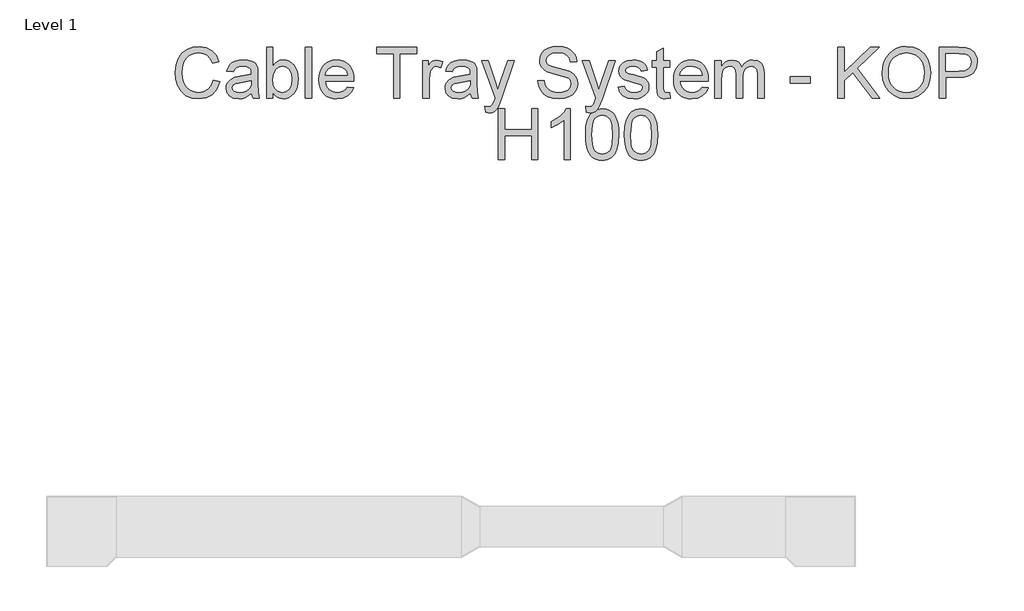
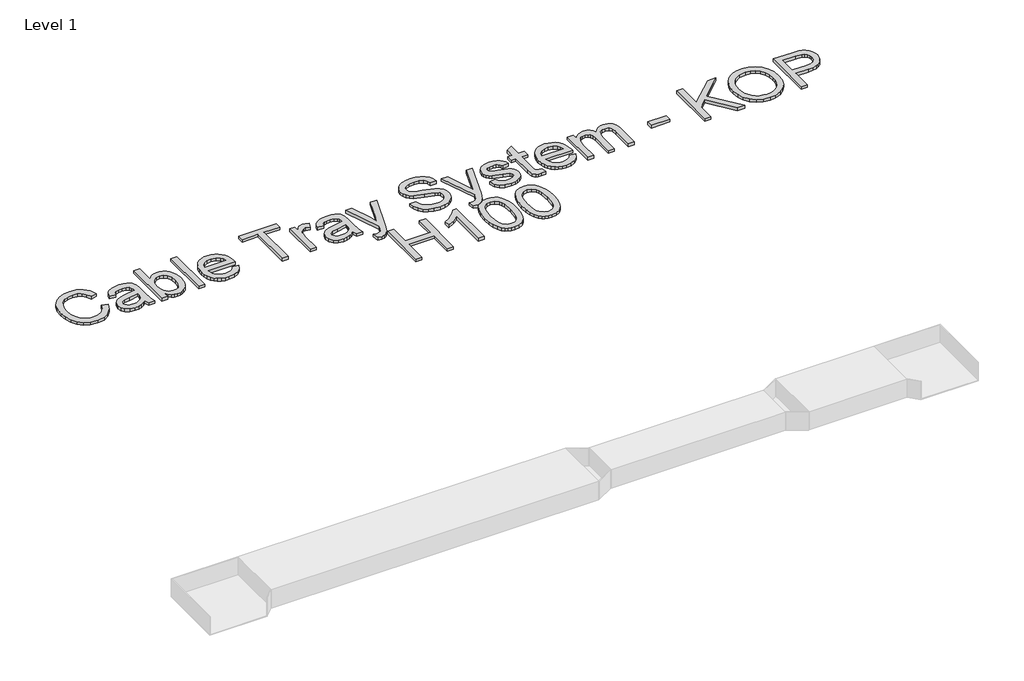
# One storey, part 91 of 106: 1 proxy.
"""IFC4 building model written with IfcOpenShell, lengths in millimetres."""

import ifcopenshell
import ifcopenshell.guid

model = None  # the IFC model being written
_history = None  # IfcOwnerHistory: only IFC2X3 demands one
_inside = {}  # id of a spatial element -> (the spatial element, [elements in it])
_under = {}  # id of a project, library or spatial element -> (it, [spatial elements below it])
_declared = {}  # id of a project -> (the project, [libraries it declares])
_typed = {}  # id of a type object -> (the type object, [elements of that type])
_made_of = {}  # id of a material, layer set ... -> (it, [elements and type objects made of it])


def new_model(schema):
    """Start an empty IFC model of exactly this schema.

    Asked for "IFC4X3", IfcOpenShell would pick the latest addendum, in which some entities
    have other attributes; the version numbers below select the first issue.
    IFC2X3 requires an IfcOwnerHistory on every rooted entity: one is made here for all.
    """
    global model, _history
    if schema == "IFC4X3":
        model = ifcopenshell.file(schema_version=(4, 3, 0, 0))
    else:
        model = ifcopenshell.file(schema=schema)
    _inside.clear()
    _under.clear()
    _declared.clear()
    _typed.clear()
    _made_of.clear()
    _history = None
    if model.schema == "IFC2X3":
        org = make("IfcOrganization", Name="unknown")
        user = make(
            "IfcPersonAndOrganization",
            ThePerson=make("IfcPerson", FamilyName="unknown"),
            TheOrganization=org,
        )
        app = make(
            "IfcApplication",
            ApplicationDeveloper=org,
            Version="unknown",
            ApplicationFullName="unknown",
            ApplicationIdentifier="unknown",
        )
        _history = make(
            "IfcOwnerHistory",
            OwningUser=user,
            OwningApplication=app,
            ChangeAction="ADDED",
            CreationDate=0,
        )
    return model


def make(cls, **values):
    """One entity of the class cls with the attributes given. An attribute that is None is left unset."""
    return model.create_entity(
        cls, **{name: value for name, value in values.items() if value is not None}
    )


def rooted(cls, **values):
    """An entity with a GlobalId (a new one), such as an element, a storey or a relation."""
    return make(cls, GlobalId=ifcopenshell.guid.new(), OwnerHistory=_history, **values)


def si_unit(unit_type, name, prefix=None):
    """IfcSIUnit, for example si_unit("LENGTHUNIT", "METRE", prefix="MILLI")."""
    return make("IfcSIUnit", UnitType=unit_type, Prefix=prefix, Name=name)


def assignment(units):
    """IfcUnitAssignment: the units of a project."""
    return None if units is None else make("IfcUnitAssignment", Units=units)


def point(xyz):
    """IfcCartesianPoint."""
    return None if xyz is None else make("IfcCartesianPoint", Coordinates=xyz)


def direction(xyz):
    """IfcDirection."""
    return None if xyz is None else make("IfcDirection", DirectionRatios=xyz)


def frame(location, z_axis=None, x_axis=None):
    """IfcAxis2Placement3D, a coordinate frame: its origin and axes. An axis left out is left unset."""
    return make(
        "IfcAxis2Placement3D",
        Location=point(location),
        Axis=direction(z_axis),
        RefDirection=direction(x_axis),
    )


def origin():
    """The frame at (0, 0, 0) with its axes left unset."""
    return frame((0.0, 0.0, 0.0))


def origin_with_axes():
    """The frame at (0, 0, 0) with the z axis (0, 0, 1) and the x axis (1, 0, 0) written out."""
    return frame((0.0, 0.0, 0.0), z_axis=(0.0, 0.0, 1.0), x_axis=(1.0, 0.0, 0.0))


def place(relative_to, where):
    """IfcLocalPlacement: puts the frame where relative to a parent placement (None: the world)."""
    return make(
        "IfcLocalPlacement", PlacementRelTo=relative_to, RelativePlacement=where
    )


def context(
    kind, dimensions, precision=None, world=None, true_north=None, identifier=None
):
    """IfcGeometricRepresentationContext, for example the 3D "Model" context."""
    return make(
        "IfcGeometricRepresentationContext",
        ContextIdentifier=identifier,
        ContextType=kind,
        CoordinateSpaceDimension=dimensions,
        Precision=precision,
        WorldCoordinateSystem=world,
        TrueNorth=true_north,
    )


def project(units=None, contexts=None):
    """IfcProject with its units and contexts."""
    return rooted(
        "IfcProject",
        Name="project",
        RepresentationContexts=contexts,
        UnitsInContext=assignment(units),
    )


def spatial(cls, under=None, at=None, **own):
    """A site, building, storey or space (cls), placed at a placement, below another one or the project."""
    s = rooted(cls, ObjectPlacement=at, **own)
    if under is not None:
        _under.setdefault(under.id(), (under, []))[1].append(s)
    return s


def polyline(points):
    """IfcPolyline through the points."""
    return make("IfcPolyline", Points=[point(p) for p in points])


def outline(outer, holes=None, kind="AREA"):
    """IfcArbitraryClosedProfileDef: a profile drawn as a closed curve; with holes, ...WithVoids."""
    if holes is None:
        return make("IfcArbitraryClosedProfileDef", ProfileType=kind, OuterCurve=outer)
    return make(
        "IfcArbitraryProfileDefWithVoids",
        ProfileType=kind,
        OuterCurve=outer,
        InnerCurves=holes,
    )


def extrude(swept, where, along, depth):
    """IfcExtrudedAreaSolid: the profile swept, set in the frame where, extruded along a direction by depth."""
    return make(
        "IfcExtrudedAreaSolid",
        SweptArea=swept,
        Position=where,
        ExtrudedDirection=direction(along),
        Depth=depth,
    )


def shape(context_of_items, identifier, shape_type, items):
    """IfcShapeRepresentation: the items that make up one representation, for example the "Body"."""
    return make(
        "IfcShapeRepresentation",
        ContextOfItems=context_of_items,
        RepresentationIdentifier=identifier,
        RepresentationType=shape_type,
        Items=items,
    )


def made_of(thing, what):
    """Note that an element or type object is made of a material, layer set ...; save() writes the relation."""
    if what is not None:
        _made_of.setdefault(what.id(), (what, []))[1].append(thing)
    return thing


def element(
    cls,
    number,
    at=None,
    inside=None,
    cuts=None,
    type_object=None,
    material=None,
    context=None,
    identifier="Body",
    shape_type=None,
    held_by="IfcProductDefinitionShape",
    body=None,
    shapes=None,
    **own,
):
    """One element of the class cls, such as IfcWall. Its Tag is "e" and its number.

    at: its placement. inside: the storey or other place that contains it. cuts: it is an
    opening in that element (IfcRelVoidsElement). A single representation is given by context,
    identifier, shape_type and body (its items); several are given by shapes. held_by: the class
    of the entity that holds the representations. save() writes the other relations.
    """
    e = rooted(cls, Tag="e%d" % number, ObjectPlacement=at, **own)
    if body is not None:
        shapes = [shape(context, identifier, shape_type, body)]
    if shapes is not None:
        e.Representation = make(held_by, Representations=shapes)
    if inside is not None:
        _inside.setdefault(inside.id(), (inside, []))[1].append(e)
    if cuts is not None:
        rooted(
            "IfcRelVoidsElement", RelatingBuildingElement=cuts, RelatedOpeningElement=e
        )
    if type_object is not None:
        _typed.setdefault(type_object.id(), (type_object, []))[1].append(e)
    return made_of(e, material)


def aggregate(whole, parts):
    """IfcRelAggregates: a whole, such as a stair, and the parts it consists of."""
    return rooted("IfcRelAggregates", RelatingObject=whole, RelatedObjects=parts)


def save(model, path):
    """Write the relations noted so far, then the file.

    IfcRelAggregates (storeys below a building ...), IfcRelContainedInSpatialStructure (elements
    in a storey), IfcRelDefinesByType, IfcRelAssociatesMaterial and IfcRelDeclares: one each for
    every whole, place, type object, material and project.
    """
    for whole, parts in _under.values():
        aggregate(whole, parts)
    for where, things in _inside.values():
        rooted(
            "IfcRelContainedInSpatialStructure",
            RelatedElements=things,
            RelatingStructure=where,
        )
    for kind, things in _typed.values():
        rooted("IfcRelDefinesByType", RelatedObjects=things, RelatingType=kind)
    for what, things in _made_of.values():
        rooted("IfcRelAssociatesMaterial", RelatedObjects=things, RelatingMaterial=what)
    for by, libraries in _declared.values():
        rooted("IfcRelDeclares", RelatingContext=by, RelatedDefinitions=libraries)
    model.write(path)


model = new_model("IFC4")

# Units and contexts
model_context = context("Model", 3, world=origin())
ifc_project = project(units=[si_unit("LENGTHUNIT", "METRE", prefix="MILLI")], contexts=[model_context])

# Site, building, storey
site = spatial("IfcSite", under=ifc_project)
building = spatial("IfcBuilding", under=site)
storey = spatial("IfcBuildingStorey", under=building, Name="Level 1", Elevation=0.0)

# Proxy
placement = place(None, origin())
element("IfcBuildingElementProxy", 1, Name="250mm Arial 3", ObjectType="250mm Arial 3", at=placement, inside=storey, context=model_context, shape_type="SweptSolid", body=[
    extrude(outline(polyline([(165632.1601163, 14592.4106539), (165663.5527133, 14584.31725), (165649.0673597, 14547.7359841), (165626.3353181, 14521.01089), (165596.4755628, 14504.6631338), (165560.6070683, 14499.2138818), (165524.194415, 14503.3372258), (165495.2773573, 14515.7072579), (165473.1124671, 14535.8947824), (165456.9563161, 14563.4706036), (165447.0924801, 14595.8902044), (165443.8045348, 14630.6090677), (165447.5216758, 14667.2286547), (165458.6730988, 14698.8511778), (165476.6763239, 14724.472626), (165500.9488714, 14743.0889877), (165529.7356375, 14754.4243517), (165561.2815186, 14758.2028064), (165595.7014778, 14753.3130415), (165624.1586829, 14738.643747), (165645.764086, 14715.0992993), (165659.6286386, 14683.584075), (165628.2360417, 14676.1038078), (165617.352866, 14698.9967978), (165602.4843021, 14714.7007605), (165583.4464088, 14723.7828472), (165560.0552453, 14726.8102095), (165533.0925607, 14723.4532863), (165510.9429989, 14713.3825166), (165494.1353903, 14697.6555613), (165483.1985651, 14677.3300811), (165477.1974901, 14654.3527848), (165475.1971317, 14630.6703814), (165477.5653721, 14601.6690174), (165484.6700931, 14576.5917281), (165496.7795421, 14556.3965394), (165514.1619664, 14542.0414774), (165535.0009486, 14533.4652284), (165557.4800713, 14530.6064787), (165583.6839993, 14534.4998965), (165605.5193285, 14546.1801498), (165622.0050404, 14565.5246114), (165632.1601163, 14592.4106539)])), origin_with_axes(), (0.0, 0.0, 1.0), 15.0),
    extrude(outline(polyline([(165820.5156979, 14526.6824041), (165805.5168424, 14513.8218627), (165790.0734628, 14505.406562), (165773.8330055, 14500.7620518), (165756.442917, 14499.2138818), (165730.2083323, 14502.938687), (165710.8562065, 14514.1131026), (165698.9230343, 14531.0816596), (165694.9453102, 14552.1888891), (165696.447495, 14565.2027147), (165700.9540494, 14577.0209238), (165716.7423184, 14595.0471415), (165738.7232676, 14605.3478374), (165765.8852216, 14610.0689897), (165820.3317569, 14620.8601949), (165820.5156979, 14627.8499528), (165818.3543911, 14641.8601254), (165811.870471, 14651.0265185), (165797.369789, 14657.8323354), (165777.1669361, 14660.100941), (165758.466268, 14658.591092), (165745.4064572, 14654.0615449), (165736.5006472, 14645.6845653), (165730.2619817, 14632.6324187), (165698.8693848, 14636.5564933), (165704.3186369, 14653.7243198), (165712.4503618, 14667.2133262), (165724.0233162, 14677.5293505), (165739.7962568, 14685.1782303), (165759.0870689, 14689.914711), (165781.2136381, 14691.4935379), (165802.4358307, 14690.098652), (165819.2587677, 14685.9139943), (165831.9430323, 14679.6216794), (165840.7492076, 14671.9038217), (165850.3754531, 14650.5973228), (165851.9082948, 14623.1288005), (165851.9082948, 14584.0719953), (165853.5024501, 14529.5334895), (165859.756444, 14503.1379564), (165828.3638471, 14503.1379564), (165820.5156979, 14526.6824041)]), holes=[polyline([(165820.5156979, 14589.4675979), (165769.8706099, 14579.8413524), (165742.8619401, 14574.7523181), (165730.6298637, 14566.4749732), (165726.3379071, 14554.3961811), (165728.6754906, 14545.0611754), (165735.6882412, 14537.4122956), (165747.2228745, 14532.3079329), (165763.1261066, 14530.6064787), (165779.9873647, 14532.4842097), (165794.8865855, 14538.1174028), (165806.9653777, 14546.4177403), (165815.3653499, 14556.2969047), (165819.0901551, 14566.4749732), (165820.3317569, 14580.5771164), (165820.5156979, 14589.4675979)])]), origin_with_axes(), (0.0, 0.0, 1.0), 15.0),
    extrude(outline(polyline([(165926.4657125, 14503.1379564), (165895.0731156, 14503.1379564), (165895.0731156, 14754.2787318), (165926.4657125, 14754.2787318), (165926.4657125, 14661.1432733), (165936.789401, 14674.4215141), (165948.4466617, 14683.9059718), (165961.4374946, 14689.5966464), (165975.7618998, 14691.4935379), (165991.9333792, 14689.7844195), (166007.2158104, 14684.6570642), (166020.7354737, 14676.4333687), (166031.6186494, 14665.4352299), (166046.6098407, 14635.5448178), (166052.0361002, 14598.1128248), (166046.4182355, 14556.2049342), (166039.3959047, 14539.2746982), (166029.5646416, 14525.0269351), (166017.763677, 14513.7337243), (166004.8322417, 14505.6671451), (165990.7703356, 14500.8271976), (165975.5779588, 14499.2138818), (165960.7822048, 14501.2947143), (165947.6649125, 14507.5372119), (165936.2260817, 14517.9413746), (165926.4657125, 14532.5072023), (165926.4657125, 14503.1379564)]), holes=[polyline([(165926.4657125, 14596.6412968), (165928.6116908, 14570.4603615), (165935.0496257, 14552.7407121), (165951.4970166, 14536.140037), (165972.8801575, 14530.6064787), (165990.9983458, 14534.6838375), (166006.4800464, 14546.9159138), (166017.102639, 14567.2260656), (166020.6435032, 14595.5376509), (166017.248259, 14624.2631033), (166007.0625263, 14644.3433289), (165992.0636707, 14656.161538), (165974.2290582, 14660.100941), (165956.1108699, 14656.0235822), (165940.6291693, 14643.7915059), (165930.0065767, 14623.8492361), (165926.4657125, 14596.6412968)])]), origin_with_axes(), (0.0, 0.0, 1.0), 15.0),
    extrude(outline(polyline([(166087.3527717, 14503.1379564), (166087.3527717, 14754.2787318), (166118.7453686, 14754.2787318), (166118.7453686, 14503.1379564), (166087.3527717, 14503.1379564)])), origin_with_axes(), (0.0, 0.0, 1.0), 15.0),
    extrude(outline(polyline([(166294.9608443, 14558.075001), (166325.7403046, 14554.1509264), (166314.6501953, 14530.9590323), (166296.9535385, 14513.6225933), (166273.048873, 14502.8160596), (166243.3347377, 14499.2138818), (166223.8561524, 14500.7678), (166206.5005529, 14505.4295547), (166191.267939, 14513.1991458), (166178.1583108, 14524.0765733), (166167.6161924, 14537.759101), (166160.0861078, 14553.9439928), (166155.5680571, 14572.6312485), (166154.0620402, 14593.8208682), (166155.5833855, 14615.7290074), (166160.1474215, 14635.0389801), (166167.7541482, 14651.7507861), (166178.4035655, 14665.8644256), (166191.4787048, 14677.0771622), (166206.3625971, 14685.0862598), (166223.0552427, 14689.8917184), (166241.5566414, 14691.4935379), (166259.4621478, 14689.8955505), (166275.6547038, 14685.1015883), (166290.1343092, 14677.1116512), (166302.900964, 14665.9257393), (166313.3223712, 14651.8427566), (166320.7662334, 14635.1616074), (166325.2325508, 14615.8822916), (166326.7213232, 14594.0048092), (166326.5373822, 14585.5435233), (166185.4546371, 14585.5435233), (166190.8885607, 14562.0450609), (166203.5115117, 14544.7699355), (166221.7293347, 14534.1473429), (166243.9478743, 14530.6064787), (166260.6558483, 14532.2466193), (166274.7273346, 14537.1670409), (166286.1623333, 14545.6743121), (166294.9608443, 14558.075001)]), holes=[polyline([(166185.4546371, 14616.9361202), (166295.3287263, 14616.9361202), (166291.082755, 14633.5214669), (166282.7594248, 14645.3856612), (166264.4572956, 14656.4221211), (166241.434014, 14660.100941), (166220.2731351, 14657.1655493), (166202.7757477, 14648.359374), (166190.6126492, 14634.632777), (166185.4546371, 14616.9361202)])]), origin_with_axes(), (0.0, 0.0, 1.0), 15.0),
    extrude(outline(polyline([(166522.925054, 14503.1379564), (166522.925054, 14722.8861348), (166440.5194871, 14722.8861348), (166440.5194871, 14754.2787318), (166636.7232178, 14754.2787318), (166636.7232178, 14722.8861348), (166554.3176509, 14722.8861348), (166554.3176509, 14503.1379564), (166522.925054, 14503.1379564)])), origin_with_axes(), (0.0, 0.0, 1.0), 15.0),
    extrude(outline(polyline([(166668.1158148, 14503.1379564), (166668.1158148, 14687.5694633), (166695.5843371, 14687.5694633), (166695.5843371, 14660.284882), (166705.7317488, 14676.1038078), (166715.0820828, 14685.423485), (166734.7024559, 14691.4935379), (166750.3374407, 14689.0716481), (166766.2176801, 14681.8059787), (166755.7330433, 14653.6630061), (166733.6601236, 14660.100941), (166724.2867969, 14658.5527709), (166715.9098173, 14653.9082608), (166704.5974459, 14636.7404343), (166699.5084117, 14600.0748621), (166699.5084117, 14503.1379564), (166668.1158148, 14503.1379564)])), origin_with_axes(), (0.0, 0.0, 1.0), 15.0),
    extrude(outline(polyline([(166903.5602917, 14526.6824041), (166888.5614362, 14513.8218627), (166873.1180566, 14505.406562), (166856.8775993, 14500.7620518), (166839.4875108, 14499.2138818), (166813.2529261, 14502.938687), (166793.9008003, 14514.1131026), (166781.9676281, 14531.0816596), (166777.989904, 14552.1888891), (166779.4920888, 14565.2027147), (166783.9986432, 14577.0209238), (166799.7869122, 14595.0471415), (166821.7678614, 14605.3478374), (166848.9298154, 14610.0689897), (166903.3763507, 14620.8601949), (166903.5602917, 14627.8499528), (166901.398985, 14641.8601254), (166894.9150648, 14651.0265185), (166880.4143828, 14657.8323354), (166860.2115299, 14660.100941), (166841.5108618, 14658.591092), (166828.451051, 14654.0615449), (166819.545241, 14645.6845653), (166813.3065755, 14632.6324187), (166781.9139786, 14636.5564933), (166787.3632307, 14653.7243198), (166795.4949556, 14667.2133262), (166807.06791, 14677.5293505), (166822.8408506, 14685.1782303), (166842.1316627, 14689.914711), (166864.2582319, 14691.4935379), (166885.4804245, 14690.098652), (166902.3033615, 14685.9139943), (166914.9876261, 14679.6216794), (166923.7938014, 14671.9038217), (166933.4200469, 14650.5973228), (166934.9528886, 14623.1288005), (166934.9528886, 14584.0719953), (166936.5470439, 14529.5334895), (166942.8010378, 14503.1379564), (166911.4084409, 14503.1379564), (166903.5602917, 14526.6824041)]), holes=[polyline([(166903.5602917, 14589.4675979), (166852.9152037, 14579.8413524), (166825.9065339, 14574.7523181), (166813.6744575, 14566.4749732), (166809.3825009, 14554.3961811), (166811.7200844, 14545.0611754), (166818.732835, 14537.4122956), (166830.2674683, 14532.3079329), (166846.1707004, 14530.6064787), (166863.0319585, 14532.4842097), (166877.9311793, 14538.1174028), (166890.0099715, 14546.4177403), (166898.4099437, 14556.2969047), (166902.1347489, 14566.4749732), (166903.3763507, 14580.5771164), (166903.5602917, 14589.4675979)])]), origin_with_axes(), (0.0, 0.0, 1.0), 15.0),
    extrude(outline(polyline([(166978.1177094, 14432.5046133), (166974.1936347, 14462.7322506), (166990.1351879, 14459.9731356), (167005.0344087, 14463.4373577), (167014.1701449, 14473.0942601), (167022.7540581, 14496.2095122), (167025.2066047, 14503.8124067), (166958.4973363, 14687.5694633), (166991.5454022, 14687.5694633), (167026.9847011, 14585.1143277), (167039.3087479, 14544.1567989), (167051.6327947, 14580.3931754), (167087.9917986, 14687.5694633), (167120.7946098, 14687.5694633), (167056.5992017, 14498.7233725), (167039.9218846, 14457.7658437), (167031.3839566, 14444.6907044), (167021.7117258, 14435.6316103), (167010.4913249, 14430.3433066), (166997.3088868, 14428.5805387), (166978.1177094, 14432.5046133)])), origin_with_axes(), (0.0, 0.0, 1.0), 15.0),
    extrude(outline(polyline([(167237.106634, 14589.4675979), (167268.4992309, 14589.4675979), (167272.1014088, 14572.0468526), (167278.6159858, 14558.0443442), (167288.7787259, 14546.9312422), (167303.3253931, 14538.1787164), (167321.1063562, 14532.4995381), (167340.9719839, 14530.6064787), (167358.4617071, 14532.0396856), (167373.7747952, 14536.3393065), (167386.1831483, 14543.1451234), (167394.9586667, 14552.0969186), (167400.1779925, 14562.3746218), (167401.9177678, 14573.1581628), (167396.7061062, 14592.7478791), (167388.7659865, 14600.4963936), (167375.3689505, 14607.0033064), (167329.6596126, 14618.990128), (167280.4553957, 14634.4718287), (167264.8280751, 14645.0331076), (167253.7532942, 14657.8323354), (167247.154411, 14672.5936004), (167244.9547832, 14689.0409913), (167247.6755771, 14707.4274268), (167255.8379589, 14724.5722607), (167269.2273307, 14739.1035995), (167287.6290946, 14749.64955), (167309.7173428, 14756.0644923), (167334.166167, 14758.2028064), (167360.6536707, 14755.9648576), (167383.8302364, 14749.2510112), (167402.8681296, 14738.1992229), (167416.9396159, 14722.9474485), (167425.8454259, 14704.4460498), (167429.3862901, 14683.6453887), (167397.9936932, 14683.6453887), (167392.2302086, 14702.3767136), (167380.2127301, 14715.8963769), (167361.4354199, 14724.0817513), (167335.3924403, 14726.8102095), (167308.7363241, 14724.1124082), (167290.4495233, 14716.0190043), (167279.8729159, 14704.1088247), (167276.3473801, 14689.9606963), (167278.845912, 14677.8972325), (167286.3415077, 14668.1943449), (167304.0611571, 14659.5184612), (167337.5997323, 14650.6586365), (167393.1499136, 14634.9010243), (167411.0458398, 14623.5120109), (167423.530835, 14609.455853), (167430.8654823, 14592.8858348), (167433.3103647, 14573.9552405), (167430.4976003, 14554.6031147), (167422.059307, 14536.4006201), (167408.3403743, 14520.7349785), (167389.6856915, 14508.9934115), (167367.252554, 14501.6587642), (167342.1982573, 14499.2138818), (167311.4417896, 14501.8503694), (167286.1269098, 14509.7598323), (167265.962378, 14522.9729273), (167250.6569541, 14541.5203112), (167240.8314392, 14564.1143971), (167237.106634, 14589.4675979)])), origin_with_axes(), (0.0, 0.0, 1.0), 15.0),
    extrude(outline(polyline([(167476.4751855, 14432.5046133), (167472.5511109, 14462.7322506), (167488.492664, 14459.9731356), (167503.3918848, 14463.4373577), (167512.527621, 14473.0942601), (167521.1115342, 14496.2095122), (167523.5640809, 14503.8124067), (167456.8548124, 14687.5694633), (167489.9028783, 14687.5694633), (167525.3421772, 14585.1143277), (167537.666224, 14544.1567989), (167549.9902709, 14580.3931754), (167586.3492747, 14687.5694633), (167619.152086, 14687.5694633), (167554.9566778, 14498.7233725), (167538.2793607, 14457.7658437), (167529.7414327, 14444.6907044), (167520.0692019, 14435.6316103), (167508.8488011, 14430.3433066), (167495.6663629, 14428.5805387), (167476.4751855, 14432.5046133)])), origin_with_axes(), (0.0, 0.0, 1.0), 15.0),
    extrude(outline(polyline([(167633.4381701, 14558.075001), (167664.830767, 14561.9990756), (167669.7818455, 14548.5713828), (167679.3621058, 14538.6998826), (167693.6328616, 14532.6298297), (167712.6554264, 14530.6064787), (167731.448065, 14532.4612171), (167744.66116, 14538.0254323), (167752.4786524, 14546.0881793), (167755.0844832, 14555.4385134), (167752.463324, 14563.4399468), (167744.5998463, 14569.5406565), (167712.2875444, 14578.4924517), (167665.014708, 14593.851525), (167653.050879, 14601.5693827), (167644.3826595, 14611.7857723), (167639.1173484, 14623.8492361), (167637.3622447, 14637.1083163), (167643.003102, 14660.4994798), (167658.3928321, 14678.3724134), (167678.3504303, 14687.6614338), (167705.3591002, 14691.4935379), (167725.7918793, 14689.9530321), (167743.557514, 14685.3315145), (167757.8435981, 14678.0811735), (167767.8377257, 14668.6541974), (167774.4596016, 14656.3531432), (167778.6289309, 14640.4805679), (167747.2363339, 14636.5564933), (167743.2739383, 14646.4356577), (167735.4334533, 14653.8776039), (167723.6382368, 14658.5451067), (167707.8116468, 14660.100941), (167689.785429, 14658.6140846), (167677.7679505, 14654.1535154), (167671.0081189, 14647.7155805), (167668.7548416, 14640.2966269), (167672.4949753, 14631.1608907), (167684.2058854, 14624.2324465), (167711.2452121, 14617.5492569), (167757.322432, 14602.7726634), (167769.4931947, 14595.7062634), (167778.7209014, 14586.0340326), (167784.5380354, 14573.7253142), (167786.4770801, 14558.7494513), (167784.2008103, 14543.2677507), (167777.3720007, 14528.7057551), (167766.2512346, 14516.2054314), (167751.0990949, 14506.9087468), (167732.7969656, 14501.137598), (167712.2262307, 14499.2138818), (167680.5730507, 14502.9233586), (167657.4731271, 14514.0517889), (167642.0527402, 14532.4765455), (167633.4381701, 14558.075001)])), origin_with_axes(), (0.0, 0.0, 1.0), 15.0),
    extrude(outline(polyline([(167888.5030201, 14529.3188917), (167892.4270947, 14502.2182514), (167868.9439607, 14499.2138818), (167853.8761273, 14500.5167972), (167842.640398, 14504.4255434), (167829.5192735, 14518.0984909), (167825.7178262, 14553.7217307), (167825.7178262, 14656.1768664), (167802.1733786, 14656.1768664), (167802.1733786, 14687.5694633), (167825.7178262, 14687.5694633), (167825.7178262, 14732.3897531), (167857.1104232, 14750.8451665), (167857.1104232, 14687.5694633), (167888.5030201, 14687.5694633), (167888.5030201, 14656.1768664), (167857.1104232, 14656.1768664), (167857.1104232, 14554.6414357), (167858.7658921, 14538.4546279), (167864.1308379, 14532.7218002), (167874.8300726, 14530.6064787), (167888.5030201, 14529.3188917)])), origin_with_axes(), (0.0, 0.0, 1.0), 15.0),
    extrude(outline(polyline([(168049.0221973, 14558.075001), (168079.8016576, 14554.1509264), (168068.7115483, 14530.9590323), (168051.0148915, 14513.6225933), (168027.110226, 14502.8160596), (167997.3960907, 14499.2138818), (167977.9175054, 14500.7678), (167960.5619059, 14505.4295547), (167945.329292, 14513.1991458), (167932.2196639, 14524.0765733), (167921.6775454, 14537.759101), (167914.1474608, 14553.9439928), (167909.6294101, 14572.6312485), (167908.1233932, 14593.8208682), (167909.6447385, 14615.7290074), (167914.2087745, 14635.0389801), (167921.8155012, 14651.7507861), (167932.4649185, 14665.8644256), (167945.5400578, 14677.0771622), (167960.4239501, 14685.0862598), (167977.1165957, 14689.8917184), (167995.6179944, 14691.4935379), (168013.5235008, 14689.8955505), (168029.7160568, 14685.1015883), (168044.1956622, 14677.1116512), (168056.962317, 14665.9257393), (168067.3837242, 14651.8427566), (168074.8275864, 14635.1616074), (168079.2939038, 14615.8822916), (168080.7826762, 14594.0048092), (168080.5987352, 14585.5435233), (167939.5159901, 14585.5435233), (167944.9499137, 14562.0450609), (167957.5728647, 14544.7699355), (167975.7906877, 14534.1473429), (167998.0092273, 14530.6064787), (168014.7172013, 14532.2466193), (168028.7886876, 14537.1670409), (168040.2236863, 14545.6743121), (168049.0221973, 14558.075001)]), holes=[polyline([(167939.5159901, 14616.9361202), (168049.3900793, 14616.9361202), (168045.144108, 14633.5214669), (168036.8207778, 14645.3856612), (168018.5186486, 14656.4221211), (167995.495367, 14660.100941), (167974.3344881, 14657.1655493), (167956.8371007, 14648.359374), (167944.6740022, 14634.632777), (167939.5159901, 14616.9361202)])]), origin_with_axes(), (0.0, 0.0, 1.0), 15.0),
    extrude(outline(polyline([(168112.1752732, 14503.1379564), (168112.1752732, 14687.5694633), (168143.5678701, 14687.5694633), (168143.5678701, 14657.2191987), (168153.0101746, 14671.1603935), (168165.1502805, 14682.0818902), (168179.5743204, 14689.140626), (168195.8684271, 14691.4935379), (168213.3274934, 14689.0946407), (168227.3223376, 14681.8979492), (168237.7763177, 14670.3786442), (168244.6127914, 14655.0119067), (168256.0554543, 14670.9726204), (168269.1076009, 14682.3731301), (168283.7692313, 14689.213436), (168300.0403454, 14691.4935379), (168323.6384425, 14687.6997549), (168341.0898447, 14676.3184056), (168351.8733856, 14657.0429219), (168355.4678993, 14629.5667354), (168355.4678993, 14503.1379564), (168324.0753024, 14503.1379564), (168324.0753024, 14616.0777289), (168321.1629033, 14642.2893211), (168310.6169527, 14655.1958477), (168292.6827055, 14660.100941), (168275.6758274, 14656.9586156), (168261.8112747, 14647.5316395), (168252.5912322, 14631.1762191), (168249.5178847, 14607.248561), (168249.5178847, 14503.1379564), (168218.1252878, 14503.1379564), (168218.1252878, 14619.5726079), (168216.3088704, 14637.3229141), (168210.8596184, 14649.9841861), (168201.2716939, 14657.5717523), (168187.0392592, 14660.100941), (168174.9451386, 14658.4148152), (168163.8013798, 14653.3564378), (168154.6043299, 14645.048436), (168148.350336, 14633.6134374), (168143.5678701, 14596.1507875), (168143.5678701, 14503.1379564), (168112.1752732, 14503.1379564)])), origin_with_axes(), (0.0, 0.0, 1.0), 15.0),
    extrude(outline(polyline([(168484.9623616, 14577.6953741), (168484.9623616, 14609.087971), (168583.064227, 14609.087971), (168583.064227, 14577.6953741), (168484.9623616, 14577.6953741)])), origin_with_axes(), (0.0, 0.0, 1.0), 15.0),
    extrude(outline(polyline([(168720.4068385, 14503.1379564), (168720.4068385, 14754.2787318), (168751.7994354, 14754.2787318), (168751.7994354, 14631.3448317), (168880.5581338, 14754.2787318), (168924.4587185, 14754.2787318), (168816.3014119, 14651.0265185), (168928.3827931, 14503.1379564), (168890.0004383, 14503.1379564), (168794.0445512, 14629.8119901), (168751.7994354, 14589.4675979), (168751.7994354, 14503.1379564), (168720.4068385, 14503.1379564)])), origin_with_axes(), (0.0, 0.0, 1.0), 15.0),
    extrude(outline(polyline([(168940.155017, 14625.3974061), (168942.2473458, 14654.8547905), (168948.5243324, 14680.932259), (168958.9859766, 14703.6298117), (168973.6322785, 14722.9474485), (168991.5856863, 14738.3716676), (169011.9686481, 14749.3889669), (169034.7811639, 14755.9993465), (169060.0232337, 14758.2028064), (169092.9640007, 14754.0641339), (169122.5018592, 14741.6481166), (169147.0273256, 14721.8284741), (169164.930916, 14695.4789262), (169175.8754054, 14663.8717315), (169179.5235685, 14628.2791484), (169175.6838002, 14592.2113845), (169164.1644952, 14560.1596656), (169145.6017829, 14533.7641325), (169120.6317924, 14514.6649256), (169091.3468528, 14503.0766427), (169059.8392927, 14499.2138818), (169026.392688, 14503.4828458), (168996.6862169, 14516.2897377), (168972.2220642, 14536.4772622), (168954.5024148, 14562.8881238), (168943.7418664, 14593.2767094), (168940.155017, 14625.3974061)]), holes=[polyline([(168971.5476139, 14625.0908378), (168973.1168605, 14604.2786803), (168977.8246004, 14585.8041064), (168985.6708336, 14569.667116), (168996.6555601, 14555.867709), (169010.0085269, 14544.8159208), (169024.9594811, 14536.9217863), (169041.5084227, 14532.1853056), (169059.6553517, 14530.6064787), (169078.1126812, 14532.200634), (169094.8570602, 14536.9831), (169109.8884885, 14544.9538765), (169123.2069664, 14556.1129637), (169134.1112187, 14570.2036105), (169141.8999703, 14586.969066), (169146.5732213, 14606.4093302), (169148.1309716, 14628.5244031), (169145.4638271, 14656.3148221), (169137.4623937, 14680.3344507), (169124.333605, 14699.9778164), (169106.2843946, 14714.6394468), (169084.510379, 14723.7675188), (169060.2071747, 14726.8102095), (169026.4386733, 14720.9470902), (168997.7285492, 14703.3577323), (168986.27439, 14689.6713724), (168978.0928477, 14672.0647701), (168973.1839224, 14650.5379252), (168971.5476139, 14625.0908378)])]), origin_with_axes(), (0.0, 0.0, 1.0), 15.0),
    extrude(outline(polyline([(169222.6883893, 14503.1379564), (169222.6883893, 14754.2787318), (169315.762534, 14754.2787318), (169353.2864976, 14751.8874988), (169370.0174641, 14747.4192654), (169383.7900463, 14740.1459318), (169394.8801556, 14729.737937), (169403.5637036, 14715.8657201), (169409.173904, 14699.5026355), (169411.0439708, 14681.6220377), (169405.9932576, 14652.0228655), (169390.8411179, 14627.3594434), (169378.7067602, 14617.6488916), (169362.5065401, 14610.7127832), (169342.2404574, 14606.5511181), (169317.9085124, 14605.1638964), (169254.0809862, 14605.1638964), (169254.0809862, 14503.1379564), (169222.6883893, 14503.1379564)]), holes=[polyline([(169254.0809862, 14636.5564933), (169319.7479223, 14636.5564933), (169347.5843266, 14639.4382356), (169365.9784264, 14648.0834625), (169376.233137, 14661.9556794), (169379.6513739, 14680.5183917), (169377.6356871, 14694.6205349), (169371.5886268, 14706.5153861), (169362.2612854, 14715.4671813), (169350.4047553, 14720.7401565), (169319.0121583, 14722.8861348), (169254.0809862, 14722.8861348), (169254.0809862, 14636.5564933)])]), origin_with_axes(), (0.0, 0.0, 1.0), 15.0),
    extrude(outline(polyline([(167040.9029032, 14198.2009118), (167040.9029032, 14449.3416872), (167072.2955001, 14449.3416872), (167072.2955001, 14347.3157472), (167205.714037, 14347.3157472), (167205.714037, 14449.3416872), (167237.106634, 14449.3416872), (167237.106634, 14198.2009118), (167205.714037, 14198.2009118), (167205.714037, 14315.9231502), (167072.2955001, 14315.9231502), (167072.2955001, 14198.2009118), (167040.9029032, 14198.2009118)])), origin_with_axes(), (0.0, 0.0, 1.0), 15.0),
    extrude(outline(polyline([(167397.9936932, 14198.2009118), (167366.6010963, 14198.2009118), (167366.6010963, 14393.9141332), (167336.8639683, 14372.7302617), (167303.8159024, 14356.880679), (167303.8159024, 14386.5564933), (167328.4716603, 14399.9688577), (167349.8318087, 14415.9257393), (167366.6700741, 14432.8942963), (167377.7601835, 14449.3416872), (167397.9936932, 14449.3416872), (167397.9936932, 14198.2009118)])), origin_with_axes(), (0.0, 0.0, 1.0), 15.0),
    extrude(outline(polyline([(167472.5511109, 14321.7479485), (167474.8580376, 14361.9467207), (167481.7788176, 14394.0061037), (167493.2444731, 14418.4166069), (167509.1860262, 14435.6687397), (167529.7184401, 14445.9234503), (167554.9566778, 14449.3416872), (167574.3011394, 14447.3183362), (167591.62225, 14441.2482833), (167606.1076035, 14431.3691189), (167616.944794, 14417.9184334), (167631.6600738, 14380.7623519), (167635.936702, 14355.0489333), (167637.3622447, 14321.7479485), (167635.0783107, 14281.7791026), (167628.2265085, 14249.7963616), (167616.8298309, 14225.3628658), (167600.9112704, 14208.0417552), (167580.3328713, 14197.7180667), (167554.9566778, 14194.2768372), (167537.666224, 14195.7713578), (167522.3378076, 14200.2549196), (167508.9714284, 14207.7275226), (167497.5670866, 14218.1891669), (167486.6225972, 14237.1006007), (167478.8051048, 14260.6642089), (167474.1146094, 14288.8799915), (167472.5511109, 14321.7479485)]), holes=[polyline([(167503.9437078, 14321.8092622), (167507.6225278, 14272.4287685), (167512.2210527, 14255.5387696), (167518.6589876, 14243.848936), (167535.0910501, 14230.2143096), (167554.9566778, 14225.6694341), (167574.8223055, 14230.229638), (167591.254368, 14243.9102497), (167597.6923029, 14255.6192438), (167602.2908278, 14272.5054106), (167605.9696478, 14321.8092622), (167602.4134552, 14370.0784456), (167597.9682144, 14386.912879), (167591.7448773, 14398.8805402), (167575.3434717, 14413.1819527), (167554.5887958, 14417.9490902), (167534.9377659, 14413.7491041), (167519.1494969, 14401.1491458), (167512.4969642, 14388.1199918), (167507.7451551, 14370.5536265), (167503.9437078, 14321.8092622)])]), origin_with_axes(), (0.0, 0.0, 1.0), 15.0),
    extrude(outline(polyline([(167664.830767, 14321.7479485), (167667.1376937, 14361.9467207), (167674.0584737, 14394.0061037), (167685.5241293, 14418.4166069), (167701.4656824, 14435.6687397), (167721.9980962, 14445.9234503), (167747.2363339, 14449.3416872), (167766.5807955, 14447.3183362), (167783.9019061, 14441.2482833), (167798.3872597, 14431.3691189), (167809.2244501, 14417.9184334), (167823.9397299, 14380.7623519), (167828.2163581, 14355.0489333), (167829.6419009, 14321.7479485), (167827.3579668, 14281.7791026), (167820.5061647, 14249.7963616), (167809.109487, 14225.3628658), (167793.1909265, 14208.0417552), (167772.6125274, 14197.7180667), (167747.2363339, 14194.2768372), (167729.9458802, 14195.7713578), (167714.6174637, 14200.2549196), (167701.2510845, 14207.7275226), (167689.8467427, 14218.1891669), (167678.9022533, 14237.1006007), (167671.0847609, 14260.6642089), (167666.3942655, 14288.8799915), (167664.830767, 14321.7479485)]), holes=[polyline([(167696.2233639, 14321.8092622), (167699.9021839, 14272.4287685), (167704.5007088, 14255.5387696), (167710.9386438, 14243.848936), (167727.3707062, 14230.2143096), (167747.2363339, 14225.6694341), (167767.1019617, 14230.229638), (167783.5340241, 14243.9102497), (167789.9719591, 14255.6192438), (167794.570484, 14272.5054106), (167798.2493039, 14321.8092622), (167794.6931113, 14370.0784456), (167790.2478705, 14386.912879), (167784.0245335, 14398.8805402), (167767.6231278, 14413.1819527), (167746.8684519, 14417.9490902), (167727.217422, 14413.7491041), (167711.4291531, 14401.1491458), (167704.7766203, 14388.1199918), (167700.0248112, 14370.5536265), (167696.2233639, 14321.8092622)])]), origin_with_axes(), (0.0, 0.0, 1.0), 15.0),
])

save(model, "model.ifc")
